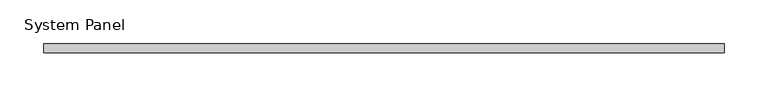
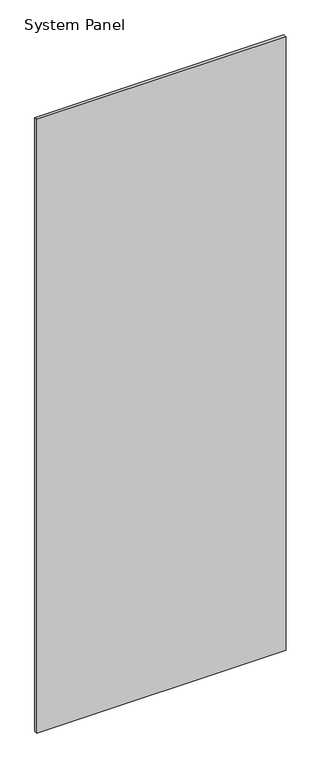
"""IFC4 building model written with IfcOpenShell, lengths in millimetres: plate geometry, System Panel : стекло_смещение_0."""

from ifc_helpers import new_model, si_unit, origin, origin_with_axes, place, context, project, spatial, polyline, outline, extrude, source, transform, mapped, element, save


def system_panel_6ecac90f(model_context):
    return source(origin(), model_context, "Body", "SweptSolid", [
        extrude(outline(polyline([(387.5, -5.0), (-387.5, -5.0), (-387.5, 5.0), (387.5, 5.0), (387.5, -5.0)])), origin_with_axes(), (0.0, 0.0, 1.0), 2015.0),
    ])


if __name__ == "__main__":
    model = new_model("IFC4")
    model_context = context("Model", 3, world=origin())
    ifc_project = project(units=[si_unit("LENGTHUNIT", "METRE", prefix="MILLI")], contexts=[model_context])
    site = spatial("IfcSite", under=ifc_project)
    building = spatial("IfcBuilding", under=site)
    placement = place(None, origin())
    system_panel_shape = system_panel_6ecac90f(model_context)
    element("IfcPlate", 1, ObjectType="System Panel : стекло_смещение_0", at=placement, inside=building, context=model_context, shape_type="MappedRepresentation", body=[
        mapped(system_panel_shape, transform((0.0, 0.0, 0.0), x_axis=(1.0, 0.0, 0.0), y_axis=(0.0, 1.0, 0.0), z_axis=(0.0, 0.0, 1.0))),
    ])
    save(model, "model.ifc")
